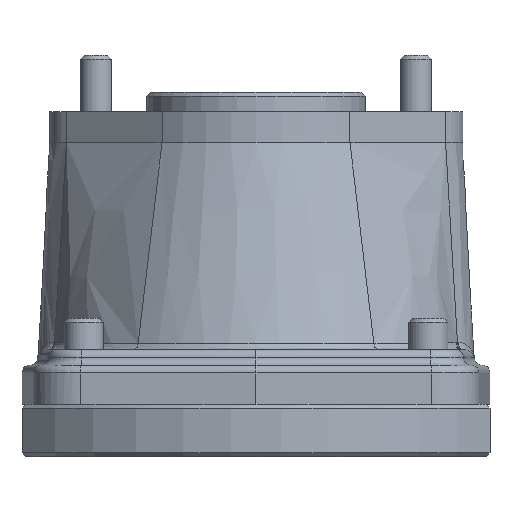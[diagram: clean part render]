
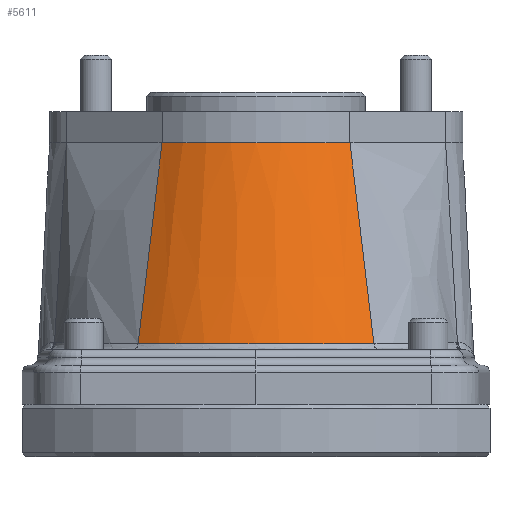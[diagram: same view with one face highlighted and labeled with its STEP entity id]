
A CAD part, left-side view. The second image highlights one B-rep face of the part: STEP entity #5611.
In plain terms, the highlighted free-form (B-spline) face has degree [3, 3] with [10, 4] control points.
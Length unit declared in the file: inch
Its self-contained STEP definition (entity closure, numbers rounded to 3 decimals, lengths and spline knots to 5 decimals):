
#32=B_SPLINE_SURFACE_WITH_KNOTS('',3,3,((#10464,#10465,#10466,#10467),(#10468,
#10469,#10470,#10471),(#10472,#10473,#10474,#10475),(#10476,#10477,#10478,
#10479),(#10480,#10481,#10482,#10483),(#10484,#10485,#10486,#10487),(#10488,
#10489,#10490,#10491),(#10492,#10493,#10494,#10495),(#10496,#10497,#10498,
#10499),(#10500,#10501,#10502,#10503)),.UNSPECIFIED.,.F.,.F.,.F.,(4,1,1,
1,1,1,1,4),(4,4),(0.,0.14286,0.28571,0.42857,
0.57143,0.71429,0.85714,1.),(0.,0.9037),
 .UNSPECIFIED.);
#84=B_SPLINE_CURVE_WITH_KNOTS('',3,(#9694,#9695,#9696,#9697,#9698,#9699,
#9700,#9701,#9702),.UNSPECIFIED.,.F.,.F.,(4,1,1,1,1,1,4),(0.,0.95311,
2.85934,3.81245,4.76556,5.24212,6.67179),
 .UNSPECIFIED.);
#120=B_SPLINE_CURVE_WITH_KNOTS('',3,(#10459,#10460,#10461,#10462),
 .UNSPECIFIED.,.F.,.F.,(4,4),(0.,0.9037),.UNSPECIFIED.);
#121=B_SPLINE_CURVE_WITH_KNOTS('',3,(#10505,#10506,#10507,#10508),
 .UNSPECIFIED.,.F.,.F.,(4,4),(0.,0.9037),.UNSPECIFIED.);
#764=FACE_OUTER_BOUND('',#1127,.T.);
#1127=EDGE_LOOP('',(#4753,#4754,#4755,#4756));
#2076=CIRCLE('',#6231,1.49606);
#2527=VERTEX_POINT('',#9622);
#2529=VERTEX_POINT('',#9682);
#2571=VERTEX_POINT('',#10458);
#2572=VERTEX_POINT('',#10504);
#3251=EDGE_CURVE('',#2527,#2529,#84,.T.);
#3313=EDGE_CURVE('',#2571,#2529,#120,.T.);
#3315=EDGE_CURVE('',#2572,#2527,#121,.T.);
#3316=EDGE_CURVE('',#2571,#2572,#2076,.T.);
#4753=ORIENTED_EDGE('',*,*,#3251,.F.);
#4754=ORIENTED_EDGE('',*,*,#3315,.F.);
#4755=ORIENTED_EDGE('',*,*,#3316,.F.);
#4756=ORIENTED_EDGE('',*,*,#3313,.T.);
#5611=ADVANCED_FACE('',(#764),#32,.T.);
#6231=AXIS2_PLACEMENT_3D('',#10509,#7699,#7700);
#7699=DIRECTION('center_axis',(0.,0.,1.));
#7700=DIRECTION('ref_axis',(-0.773,0.634,0.));
#9622=CARTESIAN_POINT('',(-1.64392,-1.19007,-2.34296));
#9682=CARTESIAN_POINT('',(-1.64392,1.19007,-2.34296));
#9694=CARTESIAN_POINT('Ctrl Pts',(-1.64392,-1.19007,-2.34296));
#9695=CARTESIAN_POINT('Ctrl Pts',(-1.71465,-1.09245,-2.34294));
#9696=CARTESIAN_POINT('Ctrl Pts',(-1.90243,-0.77753,
-2.3429));
#9697=CARTESIAN_POINT('Ctrl Pts',(-2.03263,-0.30423,-2.34287));
#9698=CARTESIAN_POINT('Ctrl Pts',(-2.03224,0.18534,-2.34287));
#9699=CARTESIAN_POINT('Ctrl Pts',(-1.97783,0.48274,-2.34288));
#9700=CARTESIAN_POINT('Ctrl Pts',(-1.86544,0.82922,-2.34291));
#9701=CARTESIAN_POINT('Ctrl Pts',(-1.75002,1.04364,-2.34293));
#9702=CARTESIAN_POINT('Ctrl Pts',(-1.64392,1.19007,-2.34296));
#10458=CARTESIAN_POINT('',(-1.15678,0.94872,-0.31496));
#10459=CARTESIAN_POINT('Ctrl Pts',(-1.15678,0.94872,
-0.31496));
#10460=CARTESIAN_POINT('Ctrl Pts',(-1.31916,1.02917,-0.99096));
#10461=CARTESIAN_POINT('Ctrl Pts',(-1.48154,1.10962,-1.66696));
#10462=CARTESIAN_POINT('Ctrl Pts',(-1.64392,1.19007,-2.34296));
#10464=CARTESIAN_POINT('Ctrl Pts',(-1.15678,-0.94872,
-0.31496));
#10465=CARTESIAN_POINT('Ctrl Pts',(-1.31916,-1.02917,
-0.99096));
#10466=CARTESIAN_POINT('Ctrl Pts',(-1.48154,-1.10962,
-1.66696));
#10467=CARTESIAN_POINT('Ctrl Pts',(-1.64392,-1.19007,
-2.34296));
#10468=CARTESIAN_POINT('Ctrl Pts',(-1.19446,-0.90277,
-0.31496));
#10469=CARTESIAN_POINT('Ctrl Pts',(-1.35866,-0.97868,
-0.99096));
#10470=CARTESIAN_POINT('Ctrl Pts',(-1.52287,-1.0546,
-1.66696));
#10471=CARTESIAN_POINT('Ctrl Pts',(-1.68707,-1.13052,
-2.34296));
#10472=CARTESIAN_POINT('Ctrl Pts',(-1.28546,-0.78068,
-0.31496));
#10473=CARTESIAN_POINT('Ctrl Pts',(-1.45398,-0.84495,
-0.99096));
#10474=CARTESIAN_POINT('Ctrl Pts',(-1.62249,-0.90921,
-1.66696));
#10475=CARTESIAN_POINT('Ctrl Pts',(-1.79101,-0.97347,
-2.34296));
#10476=CARTESIAN_POINT('Ctrl Pts',(-1.41834,-0.51197,
-0.31496));
#10477=CARTESIAN_POINT('Ctrl Pts',(-1.59286,-0.55295,
-0.99096));
#10478=CARTESIAN_POINT('Ctrl Pts',(-1.76739,-0.59392,
-1.66696));
#10479=CARTESIAN_POINT('Ctrl Pts',(-1.9419,-0.63489,
-2.34296));
#10480=CARTESIAN_POINT('Ctrl Pts',(-1.49931,-0.17867,
-0.31496));
#10481=CARTESIAN_POINT('Ctrl Pts',(-1.67735,-0.19273,
-0.99096));
#10482=CARTESIAN_POINT('Ctrl Pts',(-1.85538,-0.2068,
-1.66696));
#10483=CARTESIAN_POINT('Ctrl Pts',(-2.03342,-0.22086,
-2.34296));
#10484=CARTESIAN_POINT('Ctrl Pts',(-1.4995,0.17869,
-0.31496));
#10485=CARTESIAN_POINT('Ctrl Pts',(-1.67754,0.19276,
-0.99096));
#10486=CARTESIAN_POINT('Ctrl Pts',(-1.85559,0.20683,-1.66696));
#10487=CARTESIAN_POINT('Ctrl Pts',(-2.03363,0.22089,
-2.34296));
#10488=CARTESIAN_POINT('Ctrl Pts',(-1.41821,0.51186,
-0.31496));
#10489=CARTESIAN_POINT('Ctrl Pts',(-1.59273,0.55283,
-0.99096));
#10490=CARTESIAN_POINT('Ctrl Pts',(-1.76724,0.5938,
-1.66696));
#10491=CARTESIAN_POINT('Ctrl Pts',(-1.94175,0.63477,
-2.34296));
#10492=CARTESIAN_POINT('Ctrl Pts',(-1.28553,0.78075,
-0.31496));
#10493=CARTESIAN_POINT('Ctrl Pts',(-1.45405,0.84501,
-0.99096));
#10494=CARTESIAN_POINT('Ctrl Pts',(-1.62257,0.90928,-1.66696));
#10495=CARTESIAN_POINT('Ctrl Pts',(-1.7911,0.97354,-2.34296));
#10496=CARTESIAN_POINT('Ctrl Pts',(-1.19446,0.90277,
-0.31496));
#10497=CARTESIAN_POINT('Ctrl Pts',(-1.35867,0.97868,
-0.99096));
#10498=CARTESIAN_POINT('Ctrl Pts',(-1.52287,1.0546,-1.66696));
#10499=CARTESIAN_POINT('Ctrl Pts',(-1.68707,1.13052,-2.34296));
#10500=CARTESIAN_POINT('Ctrl Pts',(-1.15678,0.94872,
-0.31496));
#10501=CARTESIAN_POINT('Ctrl Pts',(-1.31916,1.02917,-0.99096));
#10502=CARTESIAN_POINT('Ctrl Pts',(-1.48154,1.10962,-1.66696));
#10503=CARTESIAN_POINT('Ctrl Pts',(-1.64392,1.19007,-2.34296));
#10504=CARTESIAN_POINT('',(-1.15678,-0.94872,-0.31496));
#10505=CARTESIAN_POINT('Ctrl Pts',(-1.15678,-0.94872,
-0.31496));
#10506=CARTESIAN_POINT('Ctrl Pts',(-1.31916,-1.02917,
-0.99096));
#10507=CARTESIAN_POINT('Ctrl Pts',(-1.48154,-1.10962,
-1.66696));
#10508=CARTESIAN_POINT('Ctrl Pts',(-1.64392,-1.19007,
-2.34296));
#10509=CARTESIAN_POINT('Origin',(0.,0.,
-0.31496));
